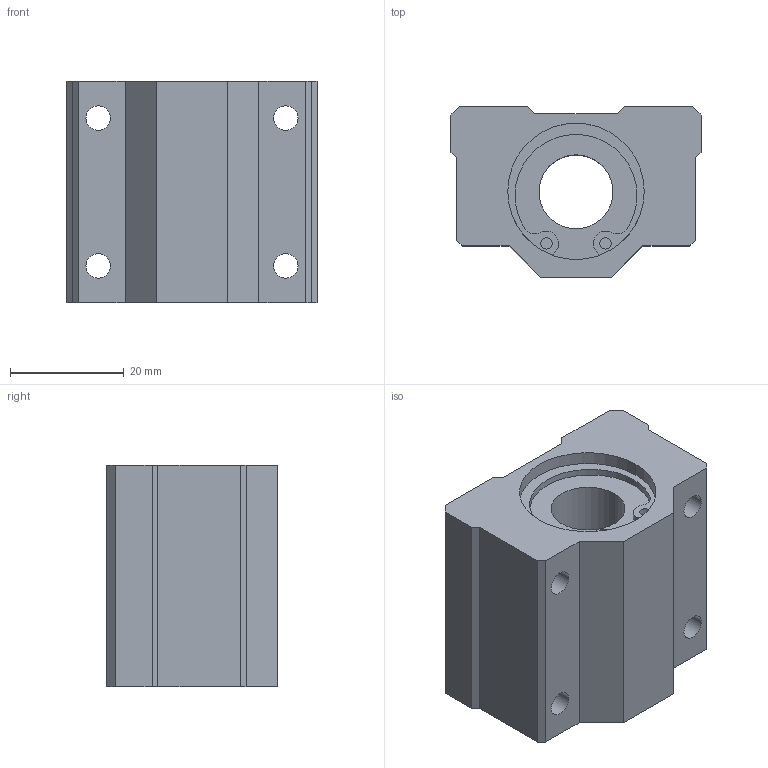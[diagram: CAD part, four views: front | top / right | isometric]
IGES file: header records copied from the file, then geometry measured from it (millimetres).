
Start section: 3D InterOp IGES (Version 21 0 1), Spatial Corp. Copyright (c) 1999-2007.
Global section: file name: LC-13VAUU.igs; native system: Spatial Corp.; preprocessor: 3D InterOp GENERIC/IGES 3.0; author: Noname; organization: Noname; date: 20220519.103739; units: millimetre
Bounding box: 44 x 30 x 39 mm (x, y, z)
Surface area: 10451.7 mm2 (no closed solid volume)
Topology: 0 solids, 0 shells, 84 faces, 440 edges, 440 vertices
Faces by surface type: revolution 50, extrusion 34
